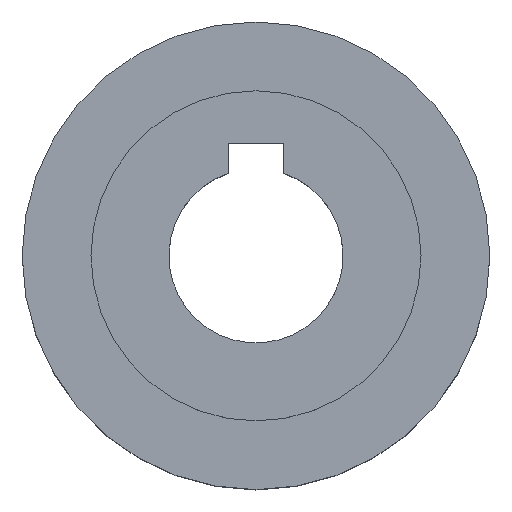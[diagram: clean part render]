
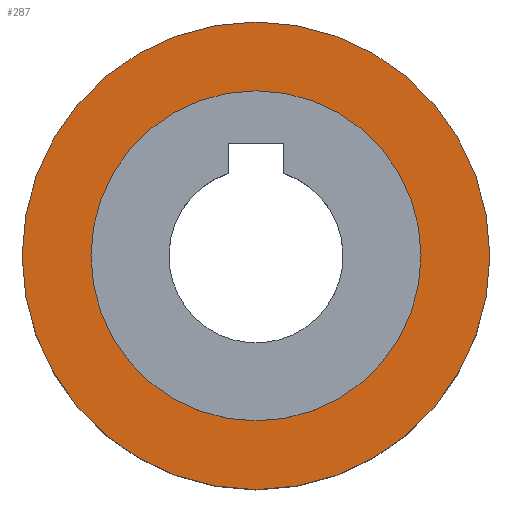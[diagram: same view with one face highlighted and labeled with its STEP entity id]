
A CAD part, top view. The second image highlights one B-rep face of the part: STEP entity #287.
In plain terms, the highlighted planar face has unit normal (0, 0, 1) as drawn and (0, 0, -1) by its records, which use the part's own axes.
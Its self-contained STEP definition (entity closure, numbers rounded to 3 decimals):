
#287=ADVANCED_FACE('',(#2127,#2129),#2131,.T.);
#2127=FACE_BOUND('',#2128,.T.);
#2128=EDGE_LOOP('',(#3896));
#2129=FACE_BOUND('',#2130,.T.);
#2130=EDGE_LOOP('',(#3897));
#2131=PLANE('',#2132);
#2132=AXIS2_PLACEMENT_3D('',#2133,#2134,#2135);
#2133=CARTESIAN_POINT('',(0.,0.,10.5));
#2134=DIRECTION('',(-0.,-0.,-1.));
#2135=DIRECTION('',(-1.,0.,0.));
#3896=ORIENTED_EDGE('',*,*,#5039,.F.);
#3897=ORIENTED_EDGE('',*,*,#4670,.T.);
#4670=EDGE_CURVE('',#5313,#5313,#5314,.T.);
#5039=EDGE_CURVE('',#6043,#6043,#6044,.F.);
#5313=VERTEX_POINT('',#6866);
#5314=CIRCLE('',#6867,18.);
#6043=VERTEX_POINT('',#8928);
#6044=CIRCLE('',#8929,25.5);
#6866=CARTESIAN_POINT('',(-18.,0.,10.5));
#6867=AXIS2_PLACEMENT_3D('',#6868,#6869,#6870);
#6868=CARTESIAN_POINT('',(0.,0.,10.5));
#6869=DIRECTION('',(-0.,-0.,-1.));
#6870=DIRECTION('',(-1.,0.,0.));
#8928=CARTESIAN_POINT('',(25.5,0.,10.5));
#8929=AXIS2_PLACEMENT_3D('',#8930,#8931,#8932);
#8930=CARTESIAN_POINT('',(0.,0.,10.5));
#8931=DIRECTION('',(0.,0.,1.));
#8932=DIRECTION('',(1.,0.,0.));
